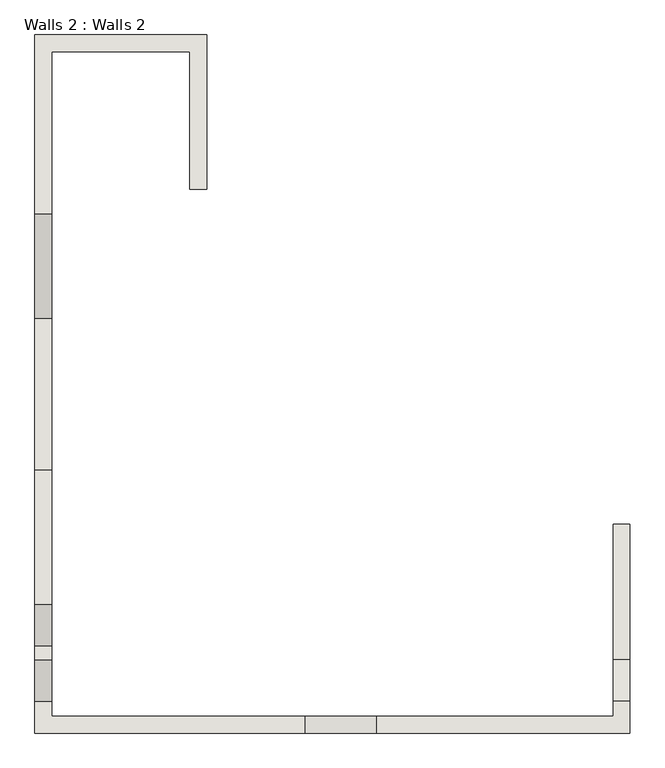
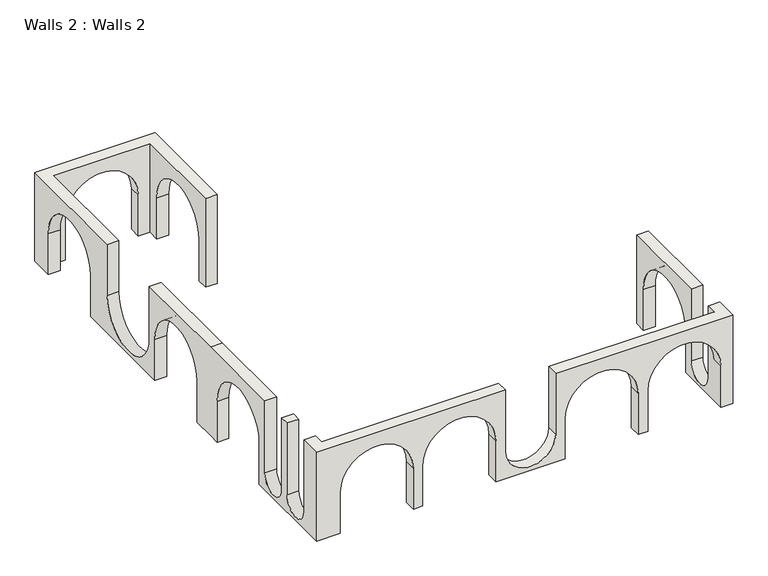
"""IFC4 building model written with IfcOpenShell, lengths in millimetres: wall geometry, Walls 2 : Walls 2."""

import ifcopenshell
import ifcopenshell.guid

model = None  # the IFC model being written
_history = None  # IfcOwnerHistory: only IFC2X3 demands one
_inside = {}  # id of a spatial element -> (the spatial element, [elements in it])
_under = {}  # id of a project, library or spatial element -> (it, [spatial elements below it])
_declared = {}  # id of a project -> (the project, [libraries it declares])
_typed = {}  # id of a type object -> (the type object, [elements of that type])
_made_of = {}  # id of a material, layer set ... -> (it, [elements and type objects made of it])


def new_model(schema):
    """Start an empty IFC model of exactly this schema.

    Asked for "IFC4X3", IfcOpenShell would pick the latest addendum, in which some entities
    have other attributes; the version numbers below select the first issue.
    IFC2X3 requires an IfcOwnerHistory on every rooted entity: one is made here for all.
    """
    global model, _history
    if schema == "IFC4X3":
        model = ifcopenshell.file(schema_version=(4, 3, 0, 0))
    else:
        model = ifcopenshell.file(schema=schema)
    _inside.clear()
    _under.clear()
    _declared.clear()
    _typed.clear()
    _made_of.clear()
    _history = None
    if model.schema == "IFC2X3":
        org = make("IfcOrganization", Name="unknown")
        user = make(
            "IfcPersonAndOrganization",
            ThePerson=make("IfcPerson", FamilyName="unknown"),
            TheOrganization=org,
        )
        app = make(
            "IfcApplication",
            ApplicationDeveloper=org,
            Version="unknown",
            ApplicationFullName="unknown",
            ApplicationIdentifier="unknown",
        )
        _history = make(
            "IfcOwnerHistory",
            OwningUser=user,
            OwningApplication=app,
            ChangeAction="ADDED",
            CreationDate=0,
        )
    return model


def make(cls, **values):
    """One entity of the class cls with the attributes given. An attribute that is None is left unset."""
    return model.create_entity(
        cls, **{name: value for name, value in values.items() if value is not None}
    )


def rooted(cls, **values):
    """An entity with a GlobalId (a new one), such as an element, a storey or a relation."""
    return make(cls, GlobalId=ifcopenshell.guid.new(), OwnerHistory=_history, **values)


def si_unit(unit_type, name, prefix=None):
    """IfcSIUnit, for example si_unit("LENGTHUNIT", "METRE", prefix="MILLI")."""
    return make("IfcSIUnit", UnitType=unit_type, Prefix=prefix, Name=name)


def assignment(units):
    """IfcUnitAssignment: the units of a project."""
    return None if units is None else make("IfcUnitAssignment", Units=units)


def point(xyz):
    """IfcCartesianPoint."""
    return None if xyz is None else make("IfcCartesianPoint", Coordinates=xyz)


def direction(xyz):
    """IfcDirection."""
    return None if xyz is None else make("IfcDirection", DirectionRatios=xyz)


def frame(location, z_axis=None, x_axis=None):
    """IfcAxis2Placement3D, a coordinate frame: its origin and axes. An axis left out is left unset."""
    return make(
        "IfcAxis2Placement3D",
        Location=point(location),
        Axis=direction(z_axis),
        RefDirection=direction(x_axis),
    )


def origin():
    """The frame at (0, 0, 0) with its axes left unset."""
    return frame((0.0, 0.0, 0.0))


def place(relative_to, where):
    """IfcLocalPlacement: puts the frame where relative to a parent placement (None: the world)."""
    return make(
        "IfcLocalPlacement", PlacementRelTo=relative_to, RelativePlacement=where
    )


def context(
    kind, dimensions, precision=None, world=None, true_north=None, identifier=None
):
    """IfcGeometricRepresentationContext, for example the 3D "Model" context."""
    return make(
        "IfcGeometricRepresentationContext",
        ContextIdentifier=identifier,
        ContextType=kind,
        CoordinateSpaceDimension=dimensions,
        Precision=precision,
        WorldCoordinateSystem=world,
        TrueNorth=true_north,
    )


def project(units=None, contexts=None):
    """IfcProject with its units and contexts."""
    return rooted(
        "IfcProject",
        Name="project",
        RepresentationContexts=contexts,
        UnitsInContext=assignment(units),
    )


def spatial(cls, under=None, at=None, **own):
    """A site, building, storey or space (cls), placed at a placement, below another one or the project."""
    s = rooted(cls, ObjectPlacement=at, **own)
    if under is not None:
        _under.setdefault(under.id(), (under, []))[1].append(s)
    return s


def polyline(points):
    """IfcPolyline through the points."""
    return make("IfcPolyline", Points=[point(p) for p in points])


def circle_curve(where, radius):
    """IfcCircle in the frame where."""
    return make("IfcCircle", Position=where, Radius=radius)


def shape(context_of_items, identifier, shape_type, items):
    """IfcShapeRepresentation: the items that make up one representation, for example the "Body"."""
    return make(
        "IfcShapeRepresentation",
        ContextOfItems=context_of_items,
        RepresentationIdentifier=identifier,
        RepresentationType=shape_type,
        Items=items,
    )


def source(mapping_origin, context_of_items, identifier, shape_type, items):
    """IfcRepresentationMap: a shape defined once, which mapped items show again and again."""
    return make(
        "IfcRepresentationMap",
        MappingOrigin=mapping_origin,
        MappedRepresentation=shape(context_of_items, identifier, shape_type, items),
    )


def transform(
    local_origin,
    x_axis=None,
    y_axis=None,
    z_axis=None,
    scale=None,
    scale2=None,
    scale3=None,
    uniform=True,
):
    """IfcCartesianTransformationOperator3D, or its non-uniform kind. x_axis, y_axis, z_axis: its Axis1, 2, 3."""
    if uniform:
        return make(
            "IfcCartesianTransformationOperator3D",
            Axis1=direction(x_axis),
            Axis2=direction(y_axis),
            LocalOrigin=point(local_origin),
            Scale=scale,
            Axis3=direction(z_axis),
        )
    return make(
        "IfcCartesianTransformationOperator3DnonUniform",
        Axis1=direction(x_axis),
        Axis2=direction(y_axis),
        LocalOrigin=point(local_origin),
        Scale=scale,
        Axis3=direction(z_axis),
        Scale2=scale2,
        Scale3=scale3,
    )


def mapped(mapping_source, mapping_target):
    """IfcMappedItem: shows the shape of a source again, moved by a transform."""
    return make(
        "IfcMappedItem", MappingSource=mapping_source, MappingTarget=mapping_target
    )


def made_of(thing, what):
    """Note that an element or type object is made of a material, layer set ...; save() writes the relation."""
    if what is not None:
        _made_of.setdefault(what.id(), (what, []))[1].append(thing)
    return thing


def element(
    cls,
    number,
    at=None,
    inside=None,
    cuts=None,
    type_object=None,
    material=None,
    context=None,
    identifier="Body",
    shape_type=None,
    held_by="IfcProductDefinitionShape",
    body=None,
    shapes=None,
    **own,
):
    """One element of the class cls, such as IfcWall. Its Tag is "e" and its number.

    at: its placement. inside: the storey or other place that contains it. cuts: it is an
    opening in that element (IfcRelVoidsElement). A single representation is given by context,
    identifier, shape_type and body (its items); several are given by shapes. held_by: the class
    of the entity that holds the representations. save() writes the other relations.
    """
    e = rooted(cls, Tag="e%d" % number, ObjectPlacement=at, **own)
    if body is not None:
        shapes = [shape(context, identifier, shape_type, body)]
    if shapes is not None:
        e.Representation = make(held_by, Representations=shapes)
    if inside is not None:
        _inside.setdefault(inside.id(), (inside, []))[1].append(e)
    if cuts is not None:
        rooted(
            "IfcRelVoidsElement", RelatingBuildingElement=cuts, RelatedOpeningElement=e
        )
    if type_object is not None:
        _typed.setdefault(type_object.id(), (type_object, []))[1].append(e)
    return made_of(e, material)


def aggregate(whole, parts):
    """IfcRelAggregates: a whole, such as a stair, and the parts it consists of."""
    return rooted("IfcRelAggregates", RelatingObject=whole, RelatedObjects=parts)


def save(model, path):
    """Write the relations noted so far, then the file.

    IfcRelAggregates (storeys below a building ...), IfcRelContainedInSpatialStructure (elements
    in a storey), IfcRelDefinesByType, IfcRelAssociatesMaterial and IfcRelDeclares: one each for
    every whole, place, type object, material and project.
    """
    for whole, parts in _under.values():
        aggregate(whole, parts)
    for where, things in _inside.values():
        rooted(
            "IfcRelContainedInSpatialStructure",
            RelatedElements=things,
            RelatingStructure=where,
        )
    for kind, things in _typed.values():
        rooted("IfcRelDefinesByType", RelatedObjects=things, RelatingType=kind)
    for what, things in _made_of.values():
        rooted("IfcRelAssociatesMaterial", RelatedObjects=things, RelatingMaterial=what)
    for by, libraries in _declared.values():
        rooted("IfcRelDeclares", RelatingContext=by, RelatedDefinitions=libraries)
    model.write(path)


def plane_surface(at):
    """IfcPlane: the flat surface through the origin of the frame at, square to its z axis."""
    return make("IfcPlane", Position=at)


def revolved_surface(curve, axis_point, axis_direction):
    """IfcSurfaceOfRevolution: the curve turned about the line through axis_point along axis_direction."""
    return make(
        "IfcSurfaceOfRevolution",
        SweptCurve=make("IfcArbitraryOpenProfileDef", ProfileType="CURVE", Curve=curve),
        AxisPosition=make("IfcAxis1Placement", Location=point(axis_point), Axis=direction(axis_direction)),
    )


def advanced_brep(points, edges, surfaces, faces):
    """IfcAdvancedBrep: a solid bounded by faces that lie on surfaces and meet in shared edges.

    An edge is (start, end): straight between two places in points (the first is 0);
    or (start, end, curve); or (start, end, curve, False) where it runs against its curve.
    A face is (place in surfaces, loops), or (place, loops, False) where it looks against
    its surface's normal. A loop lists edges by number (the first is 1), with a minus sign
    where the edge is run from its end to its start. The first loop is the outer one.
    """
    corners = [point(p) for p in points]
    vertices = [make("IfcVertexPoint", VertexGeometry=c) for c in corners]
    made = []
    for start, end, *more in edges:
        made.append(
            make(
                "IfcEdgeCurve",
                EdgeStart=vertices[start],
                EdgeEnd=vertices[end],
                EdgeGeometry=more[0] if more else make("IfcPolyline", Points=[corners[start], corners[end]]),
                SameSense=more[1] if len(more) > 1 else True,
            )
        )
    hull = []
    for where, loops, *sense in faces:
        bounds = []
        for j, loop in enumerate(loops):
            ring = [make("IfcOrientedEdge", EdgeElement=made[abs(k) - 1], Orientation=k > 0) for k in loop]
            bounds.append(
                make(
                    "IfcFaceOuterBound" if j == 0 else "IfcFaceBound",
                    Bound=make("IfcEdgeLoop", EdgeList=ring),
                    Orientation=True,
                )
            )
        hull.append(make("IfcAdvancedFace", Bounds=bounds, FaceSurface=surfaces[where], SameSense=sense[0] if sense else True))
    return make("IfcAdvancedBrep", Outer=make("IfcClosedShell", CfsFaces=hull))


def walls_2_walls_2_3500fc2a(model_context):
    return source(origin(), model_context, "Body", "AdvancedBrep", [
        advanced_brep(
        [(12035.1576528, 9510.3600826, 0.0), (12035.1576528, 9900.3600826, 0.0), (12035.1576528, 9900.3600826, 1472.3), (12035.1576528, 12400.3600826, 1472.3), (12035.1576528, 12400.3600826, 0.0), (12035.1576528, 12790.3600826, 0.0), (12035.1576528, 12790.3600826, 3200.0), (12035.1576528, 8920.3600826, 3200.0), (12035.1576528, 8920.3600826, 1354.8985655), (12035.1576528, 6420.3600826, 1354.8985655), (12035.1576528, 6420.3600826, 3200.0), (12035.1576528, 2810.3600826, 3200.0), (12035.1576528, -399.6399174, 3200.0), (12035.1576528, -399.6399174, 604.8985655), (12035.1576528, -1399.6399174, 604.8985655), (12035.1576528, -1399.6399174, 3200.0), (12035.1576528, -1719.6399174, 3200.0), (12035.1576528, -1719.6399174, 604.8985655), (12035.1576528, -2719.6399174, 604.8985655), (12035.1576528, -2719.6399174, 3200.0), (12035.1576528, -3069.6399174, 3200.0), (12035.1576528, -3069.6399174, 0.0), (12035.1576528, -79.6399174, 0.0), (12035.1576528, -79.6399174, 1472.3), (12035.1576528, 2420.3600826, 1472.3), (12035.1576528, 2420.3600826, 0.0), (12035.1576528, 2810.3600826, 0.0), (12035.1576528, 3600.3600826, 0.0), (12035.1576528, 3600.3600826, 1472.3), (12035.1576528, 6100.3600826, 1472.3), (12035.1576528, 6100.3600826, 0.0), (11635.1576528, 6100.3600826, 0.0), (11635.1576528, 9510.3600826, 0.0), (15335.1576528, 12790.3600826, 3200.0), (15335.1576528, 9510.3600826, 3200.0), (15735.1576528, 9510.3600826, 3200.0), (15735.1576528, 13190.3600826, 3200.0), (11635.1576528, 13190.3600826, 3200.0), (11635.1576528, 8920.3600826, 3200.0), (11635.1576528, 8920.3600826, 1354.8985655), (11635.1576528, 6420.3600826, 1354.8985655), (11635.1576528, 6420.3600826, 3200.0), (11635.1576528, 2810.3600826, 3200.0), (11635.1576528, 2810.3600826, 0.0), (11635.1576528, 3600.3600826, 0.0), (11635.1576528, 3600.3600826, 1472.3), (11635.1576528, 6100.3600826, 1472.3), (11635.1576528, -79.6399174, 0.0), (11635.1576528, -79.6399174, 1472.3), (11635.1576528, 2420.3600826, 1472.3), (11635.1576528, 2420.3600826, 0.0), (11635.1576528, -399.6399174, 3200.0), (11635.1576528, -399.6399174, 604.8985655), (11635.1576528, -1399.6399174, 604.8985655), (11635.1576528, -1399.6399174, 3200.0), (11635.1576528, -1719.6399174, 3200.0), (11635.1576528, -1719.6399174, 604.8985655), (11635.1576528, -2719.6399174, 604.8985655), (11635.1576528, -2719.6399174, 3200.0), (11635.1576528, 9900.3600826, 0.0), (11635.1576528, 9900.3600826, 1472.3), (11635.1576528, 12400.3600826, 1472.3), (11635.1576528, 12400.3600826, 0.0), (11635.1576528, 13190.3600826, 0.0), (12435.1576528, 13190.3600826, 0.0), (12435.1576528, 12790.3600826, 0.0), (12435.1576528, -3069.6399174, 1472.3269791), (12435.1576528, -3069.6399174, 0.0), (18075.1576528, -3069.6399174, 3200.0), (18075.1576528, -3069.6399174, 1000.0), (19795.1576528, -3069.6399174, 1000.0), (19795.1576528, -3069.6399174, 3200.0), (25435.1576528, -3069.6399174, 3200.0), (25435.1576528, -3069.6399174, 1472.3269791), (22935.1576528, -3069.6399174, 1472.3269791), (22935.1576528, -3069.6399174, 0.0), (22615.1576528, -3069.6399174, 0.0), (22615.1576528, -3069.6399174, 1472.3269791), (20115.1576528, -3069.6399174, 1472.3269791), (20115.1576528, -3069.6399174, 0.0), (17755.1576528, -3069.6399174, 0.0), (17755.1576528, -3069.6399174, 1472.3269791), (15255.1576528, -3069.6399174, 1472.3269791), (15255.1576528, -3069.6399174, 0.0), (14935.1576528, -3069.6399174, 0.0), (14935.1576528, -3069.6399174, 1472.3269791), (12435.1576528, -3469.6399174, 1472.3269791), (14935.1576528, -3469.6399174, 1472.3269791), (14935.1576528, -3469.6399174, 0.0), (15255.1576528, -3469.6399174, 0.0), (15255.1576528, -3469.6399174, 1472.3269791), (17755.1576528, -3469.6399174, 1472.3269791), (17755.1576528, -3469.6399174, 0.0), (20115.1576528, -3469.6399174, 0.0), (20115.1576528, -3469.6399174, 1472.3269791), (22615.1576528, -3469.6399174, 1472.3269791), (22615.1576528, -3469.6399174, 0.0), (22935.1576528, -3469.6399174, 0.0), (22935.1576528, -3469.6399174, 1472.3269791), (25435.1576528, -3469.6399174, 1472.3269791), (25435.1576528, -3469.6399174, 0.0), (25835.1576528, -3469.6399174, 0.0), (25835.1576528, -3469.6399174, 3200.0), (19795.1576528, -3469.6399174, 3200.0), (19795.1576528, -3469.6399174, 1000.0), (18075.1576528, -3469.6399174, 1000.0), (18075.1576528, -3469.6399174, 3200.0), (11635.1576528, -3469.6399174, 3200.0), (11635.1576528, -3469.6399174, 0.0), (12435.1576528, -3469.6399174, 0.0), (25835.1576528, -2709.6399174, 3200.0), (25435.1576528, -2709.6399174, 3200.0), (25835.1576528, -1389.6399174, 0.0), (25835.1576528, -1389.6399174, 1472.3), (25835.1576528, 1110.3600826, 1472.3), (25835.1576528, 1110.3600826, 0.0), (25835.1576528, 1510.3600826, 0.0), (25835.1576528, 1510.3600826, 3200.0), (25835.1576528, -1709.6399174, 3200.0), (25835.1576528, -1709.6399174, 600.0), (25835.1576528, -2709.6399174, 600.0), (25435.1576528, -1389.6399174, 0.0), (25435.1576528, -2709.6399174, 600.0), (25435.1576528, -1709.6399174, 600.0), (25435.1576528, -1709.6399174, 3200.0), (25435.1576528, 1510.3600826, 3200.0), (25435.1576528, 1510.3600826, 0.0), (25435.1576528, 1110.3600826, 0.0), (25435.1576528, 1110.3600826, 1472.3), (25435.1576528, -1389.6399174, 1472.3), (12435.1576528, 12790.3600826, 1472.3), (14935.1576528, 12790.3600826, 1472.3), (14935.1576528, 12790.3600826, 0.0), (15335.1576528, 12790.3600826, 0.0), (15735.1576528, 13190.3600826, 0.0), (14935.1576528, 13190.3600826, 0.0), (14935.1576528, 13190.3600826, 1472.3), (12435.1576528, 13190.3600826, 1472.3), (15735.1576528, 12390.3600826, 0.0), (15335.1576528, 12390.3600826, 0.0), (15735.1576528, 9510.3600826, 0.0), (15735.1576528, 9890.3600826, 0.0), (15735.1576528, 9890.3600826, 1472.3), (15735.1576528, 12390.3600826, 1472.3), (15335.1576528, 12390.3600826, 1472.3), (15335.1576528, 9890.3600826, 1472.3), (15335.1576528, 9890.3600826, 0.0), (15335.1576528, 9510.3600826, 0.0)],
        [
            (0, 1),
            (1, 2),
            (2, 3, circle_curve(frame((12035.1576528, 11150.3600826, 1472.3), z_axis=(-1.0, 0.0, 0.0), x_axis=(0.0, 1.0, 0.0)), 1250.0)),
            (3, 4),
            (4, 5),
            (5, 6),
            (6, 7),
            (7, 8),
            (8, 9, circle_curve(frame((12035.1576528, 7670.3600826, 1354.8985655), z_axis=(-1.0, 0.0, 0.0), x_axis=(0.0, 1.0, 0.0)), 1250.0)),
            (9, 10),
            (10, 11),
            (11, 12),
            (12, 13),
            (13, 14, circle_curve(frame((12035.1576528, -899.6399174, 604.8985655), z_axis=(-1.0, 0.0, 0.0), x_axis=(0.0, 1.0, 0.0)), 500.0)),
            (14, 15),
            (15, 16),
            (16, 17),
            (17, 18, circle_curve(frame((12035.1576528, -2219.6399174, 604.8985655), z_axis=(-1.0, 0.0, 0.0), x_axis=(0.0, 1.0, 0.0)), 500.0)),
            (18, 19),
            (19, 20),
            (20, 21),
            (21, 22),
            (22, 23),
            (23, 24, circle_curve(frame((12035.1576528, 1170.3600826, 1472.3), z_axis=(-1.0, 0.0, 0.0), x_axis=(0.0, -1.0, 0.0)), 1250.0)),
            (24, 25),
            (25, 26),
            (26, 27),
            (27, 28),
            (28, 29, circle_curve(frame((12035.1576528, 4850.3600826, 1472.3), z_axis=(-1.0, 0.0, 0.0), x_axis=(0.0, 1.0, 0.0)), 1250.0)),
            (29, 30),
            (30, 0),
            (30, 31),
            (31, 32),
            (32, 0),
            (6, 33),
            (33, 34),
            (34, 35),
            (35, 36),
            (36, 37),
            (37, 38),
            (38, 7),
            (38, 39),
            (39, 8),
            (39, 40, circle_curve(frame((11635.1576528, 7670.3600826, 1354.8985655), z_axis=(-1.0, 0.0, 0.0), x_axis=(0.0, 1.0, 0.0)), 1250.0)),
            (40, 9),
            (40, 41),
            (41, 10),
            (41, 42),
            (42, 11),
            (26, 43),
            (43, 44),
            (44, 27),
            (44, 45),
            (45, 28),
            (45, 46, circle_curve(frame((11635.1576528, 4850.3600826, 1472.3), z_axis=(-1.0, 0.0, 0.0), x_axis=(0.0, 1.0, 0.0)), 1250.0)),
            (46, 29),
            (46, 31),
            (22, 47),
            (47, 48),
            (48, 23),
            (48, 49, circle_curve(frame((11635.1576528, 1170.3600826, 1472.3), z_axis=(-1.0, 0.0, 0.0), x_axis=(0.0, -1.0, 0.0)), 1250.0)),
            (49, 24),
            (49, 50),
            (50, 25),
            (50, 43),
            (42, 51),
            (51, 12),
            (51, 52),
            (52, 13),
            (52, 53, circle_curve(frame((11635.1576528, -899.6399174, 604.8985655), z_axis=(-1.0, 0.0, 0.0), x_axis=(0.0, 1.0, 0.0)), 500.0)),
            (53, 14),
            (53, 54),
            (54, 15),
            (54, 55),
            (55, 16),
            (55, 56),
            (56, 17),
            (56, 57, circle_curve(frame((11635.1576528, -2219.6399174, 604.8985655), z_axis=(-1.0, 0.0, 0.0), x_axis=(0.0, 1.0, 0.0)), 500.0)),
            (57, 18),
            (57, 58),
            (58, 19),
            (32, 59),
            (59, 1),
            (59, 60),
            (60, 2),
            (60, 61, circle_curve(frame((11635.1576528, 11150.3600826, 1472.3), z_axis=(-1.0, 0.0, 0.0), x_axis=(0.0, 1.0, 0.0)), 1250.0)),
            (61, 3),
            (61, 62),
            (62, 4),
            (62, 63),
            (63, 64),
            (64, 65),
            (65, 5),
            (66, 67),
            (67, 21),
            (20, 68),
            (68, 69),
            (69, 70, circle_curve(frame((18935.1576528, -3069.6399174, 1000.0), z_axis=(0.0, -1.0, 0.0), x_axis=(1.0, 0.0, 0.0)), 860.0)),
            (70, 71),
            (71, 72),
            (72, 73),
            (73, 74, circle_curve(frame((24185.1576528, -3069.6399174, 1472.3269791), z_axis=(0.0, -1.0, 0.0), x_axis=(1.0, 0.0, 0.0)), 1250.0)),
            (74, 75),
            (75, 76),
            (76, 77),
            (77, 78, circle_curve(frame((21365.1576528, -3069.6399174, 1472.3269791), z_axis=(0.0, -1.0, 0.0), x_axis=(1.0, 0.0, 0.0)), 1250.0)),
            (78, 79),
            (79, 80),
            (80, 81),
            (81, 82, circle_curve(frame((16505.1576528, -3069.6399174, 1472.3269791), z_axis=(0.0, -1.0, 0.0), x_axis=(1.0, 0.0, 0.0)), 1250.0)),
            (82, 83),
            (83, 84),
            (84, 85),
            (85, 66, circle_curve(frame((13685.1576528, -3069.6399174, 1472.3269791), z_axis=(0.0, -1.0, 0.0), x_axis=(1.0, 0.0, 0.0)), 1250.0)),
            (86, 87, circle_curve(frame((13685.1576528, -3469.6399174, 1472.3269791), z_axis=(0.0, 1.0, 0.0), x_axis=(1.0, 0.0, 0.0)), 1250.0)),
            (87, 88),
            (88, 89),
            (89, 90),
            (90, 91, circle_curve(frame((16505.1576528, -3469.6399174, 1472.3269791), z_axis=(0.0, 1.0, 0.0), x_axis=(1.0, 0.0, 0.0)), 1250.0)),
            (91, 92),
            (92, 93),
            (93, 94),
            (94, 95, circle_curve(frame((21365.1576528, -3469.6399174, 1472.3269791), z_axis=(0.0, 1.0, 0.0), x_axis=(1.0, 0.0, 0.0)), 1250.0)),
            (95, 96),
            (96, 97),
            (97, 98),
            (98, 99, circle_curve(frame((24185.1576528, -3469.6399174, 1472.3269791), z_axis=(0.0, 1.0, 0.0), x_axis=(1.0, 0.0, 0.0)), 1250.0)),
            (99, 100),
            (100, 101),
            (101, 102),
            (102, 103),
            (103, 104),
            (104, 105, circle_curve(frame((18935.1576528, -3469.6399174, 1000.0), z_axis=(0.0, 1.0, 0.0), x_axis=(1.0, 0.0, 0.0)), 860.0)),
            (105, 106),
            (106, 107),
            (107, 108),
            (108, 109),
            (109, 86),
            (85, 87),
            (86, 66),
            (84, 88),
            (109, 67),
            (108, 47),
            (107, 58),
            (37, 63),
            (106, 68),
            (105, 69),
            (104, 70),
            (103, 71),
            (102, 110),
            (110, 111),
            (111, 72),
            (101, 112),
            (112, 113),
            (113, 114, circle_curve(frame((25835.1576528, -139.6399174, 1472.3), z_axis=(-1.0, 0.0, 0.0), x_axis=(0.0, -1.0, 0.0)), 1250.0)),
            (114, 115),
            (115, 116),
            (116, 117),
            (117, 118),
            (118, 119),
            (119, 120, circle_curve(frame((25835.1576528, -2209.6399174, 600.0), z_axis=(-1.0, 0.0, 0.0), x_axis=(0.0, -1.0, 0.0)), 500.0)),
            (120, 110),
            (100, 121),
            (121, 112),
            (79, 93),
            (92, 80),
            (91, 81),
            (90, 82),
            (89, 83),
            (99, 73),
            (111, 122),
            (122, 123, circle_curve(frame((25435.1576528, -2209.6399174, 600.0), z_axis=(1.0, 0.0, 0.0), x_axis=(0.0, -1.0, 0.0)), 500.0)),
            (123, 124),
            (124, 125),
            (125, 126),
            (126, 127),
            (127, 128),
            (128, 129, circle_curve(frame((25435.1576528, -139.6399174, 1472.3), z_axis=(1.0, 0.0, 0.0), x_axis=(0.0, -1.0, 0.0)), 1250.0)),
            (129, 121),
            (98, 74),
            (97, 75),
            (96, 76),
            (95, 77),
            (94, 78),
            (124, 118),
            (117, 125),
            (116, 126),
            (115, 127),
            (114, 128),
            (113, 129),
            (120, 122),
            (119, 123),
            (65, 130),
            (130, 131, circle_curve(frame((13685.1576528, 12790.3600826, 1472.3), z_axis=(0.0, 1.0, 0.0), x_axis=(1.0, 0.0, 0.0)), 1250.0)),
            (131, 132),
            (132, 133),
            (133, 33),
            (36, 134),
            (134, 135),
            (135, 136),
            (136, 137, circle_curve(frame((13685.1576528, 13190.3600826, 1472.3), z_axis=(0.0, -1.0, 0.0), x_axis=(1.0, 0.0, 0.0)), 1250.0)),
            (137, 64),
            (137, 130),
            (136, 131),
            (135, 132),
            (134, 138),
            (138, 139),
            (139, 133),
            (35, 140),
            (140, 141),
            (141, 142),
            (142, 143, circle_curve(frame((15735.1576528, 11140.3600826, 1472.3), z_axis=(-1.0, 0.0, 0.0), x_axis=(0.0, -1.0, 0.0)), 1250.0)),
            (143, 138),
            (139, 144),
            (144, 145, circle_curve(frame((15335.1576528, 11140.3600826, 1472.3), z_axis=(1.0, 0.0, 0.0), x_axis=(0.0, -1.0, 0.0)), 1250.0)),
            (145, 146),
            (146, 147),
            (147, 34),
            (143, 144),
            (142, 145),
            (141, 146),
            (140, 147),
        ],
        [
            plane_surface(frame((12035.1576528, 8390.3600826, 0.0), z_axis=(1.0, 0.0, 0.0), x_axis=(0.0, 1.0, 0.0))),
            plane_surface(frame((12035.1576528, 6100.3600826, 0.0), z_axis=(0.0, 0.0, -1.0), x_axis=(-1.0, 0.0, 0.0))),
            plane_surface(frame((12035.1576528, 12790.3600826, 3200.0), z_axis=(0.0, 0.0, 1.0), x_axis=(-1.0, 0.0, 0.0))),
            plane_surface(frame((12035.1576528, 8920.3600826, 3200.0), z_axis=(0.0, -1.0, 0.0), x_axis=(-1.0, 0.0, 0.0))),
            revolved_surface(polyline([(11635.1576528, 8920.3600826, 1354.8985655), (12035.1576528, 8920.3600826, 1354.8985655)]), (11635.1576528, 7670.3600826, 1354.8985655), (-1.0, 0.0, 0.0)),
            plane_surface(frame((12035.1576528, 6420.3600826, 1354.8985655), z_axis=(0.0, 1.0, 0.0), x_axis=(-1.0, 0.0, 0.0))),
            plane_surface(frame((12035.1576528, 6420.3600826, 3200.0), z_axis=(0.0, 0.0, 1.0), x_axis=(-1.0, 0.0, 0.0))),
            plane_surface(frame((12035.1576528, 2810.3600826, 0.0), z_axis=(0.0, 0.0, -1.0), x_axis=(-1.0, 0.0, 0.0))),
            plane_surface(frame((12035.1576528, 3600.3600826, 0.0), z_axis=(0.0, 1.0, 0.0), x_axis=(-1.0, 0.0, 0.0))),
            revolved_surface(polyline([(11635.1576528, 6100.3600826, 1472.3), (12035.1576528, 6100.3600826, 1472.3)]), (11635.1576528, 4850.3600826, 1472.3), (-1.0, 0.0, 0.0)),
            plane_surface(frame((12035.1576528, 6100.3600826, 1472.3), z_axis=(0.0, -1.0, 0.0), x_axis=(-1.0, 0.0, 0.0))),
            plane_surface(frame((12035.1576528, -79.6399174, 0.0), z_axis=(0.0, 1.0, 0.0), x_axis=(-1.0, 0.0, 0.0))),
            revolved_surface(polyline([(11635.1576528, -79.63991740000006, 1472.3), (12035.1576528, -79.63991740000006, 1472.3)]), (11635.1576528, 1170.3600826, 1472.3), (-1.0, 0.0, 0.0)),
            plane_surface(frame((12035.1576528, 2420.3600826, 1472.3), z_axis=(0.0, -1.0, 0.0), x_axis=(-1.0, 0.0, 0.0))),
            plane_surface(frame((12035.1576528, 2420.3600826, 0.0), z_axis=(0.0, 0.0, -1.0), x_axis=(-1.0, 0.0, 0.0))),
            plane_surface(frame((12035.1576528, 2810.3600826, 3200.0), z_axis=(0.0, 0.0, 1.0), x_axis=(-1.0, 0.0, 0.0))),
            plane_surface(frame((12035.1576528, -399.6399174, 3200.0), z_axis=(0.0, -1.0, 0.0), x_axis=(-1.0, 0.0, 0.0))),
            revolved_surface(polyline([(11635.1576528, -399.63991739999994, 604.8985655), (12035.1576528, -399.63991739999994, 604.8985655)]), (11635.1576528, -899.6399174, 604.8985655), (-1.0, 0.0, 0.0)),
            plane_surface(frame((12035.1576528, -1399.6399174, 604.8985655), z_axis=(0.0, 1.0, 0.0), x_axis=(-1.0, 0.0, 0.0))),
            plane_surface(frame((12035.1576528, -1399.6399174, 3200.0), z_axis=(0.0, 0.0, 1.0), x_axis=(-1.0, 0.0, 0.0))),
            plane_surface(frame((12035.1576528, -1719.6399174, 3200.0), z_axis=(0.0, -1.0, 0.0), x_axis=(-1.0, 0.0, 0.0))),
            revolved_surface(polyline([(11635.1576528, -1719.6399173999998, 604.8985655), (12035.1576528, -1719.6399173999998, 604.8985655)]), (11635.1576528, -2219.6399174, 604.8985655), (-1.0, 0.0, 0.0)),
            plane_surface(frame((12035.1576528, -2719.6399174, 604.8985655), z_axis=(0.0, 1.0, 0.0), x_axis=(-1.0, 0.0, 0.0))),
            plane_surface(frame((12035.1576528, 9510.3600826, 0.0), z_axis=(0.0, 0.0, -1.0), x_axis=(-1.0, 0.0, 0.0))),
            plane_surface(frame((12035.1576528, 9900.3600826, 0.0), z_axis=(0.0, 1.0, 0.0), x_axis=(-1.0, 0.0, 0.0))),
            revolved_surface(polyline([(11635.1576528, 12400.3600826, 1472.3), (12035.1576528, 12400.3600826, 1472.3)]), (11635.1576528, 11150.3600826, 1472.3), (-1.0, 0.0, 0.0)),
            plane_surface(frame((12035.1576528, 12400.3600826, 1472.3), z_axis=(0.0, -1.0, 0.0), x_axis=(-1.0, 0.0, 0.0))),
            plane_surface(frame((12035.1576528, 12400.3600826, 0.0), z_axis=(0.0, 0.0, -1.0), x_axis=(-1.0, 0.0, 0.0))),
            plane_surface(frame((12435.1576528, -3069.6399174, 0.0), z_axis=(0.0, 1.0, 0.0), x_axis=(0.0, 0.0, -1.0))),
            plane_surface(frame((12435.1576528, -3469.6399174, 0.0), z_axis=(0.0, -1.0, 0.0), x_axis=(0.0, 0.0, 1.0))),
            revolved_surface(polyline([(14935.1576528, -3469.6399174, 1472.3269791), (14935.1576528, -3069.6399174, 1472.3269791)]), (13685.1576528, -3469.6399174, 1472.3269791), (0.0, -1.0, 0.0)),
            plane_surface(frame((14935.1576528, -3069.6399174, 0.0), z_axis=(-1.0, 0.0, 0.0), x_axis=(0.0, -1.0, 0.0))),
            plane_surface(frame((12435.1576528, -3069.6399174, 1472.3269791), z_axis=(1.0, 0.0, 0.0), x_axis=(0.0, -1.0, 0.0))),
            plane_surface(frame((12435.1576528, -3069.6399174, 0.0), z_axis=(0.0, 0.0, -1.0), x_axis=(0.0, -1.0, 0.0))),
            plane_surface(frame((11635.1576528, -3069.6399174, 0.0), z_axis=(-1.0, 0.0, 0.0), x_axis=(0.0, -1.0, 0.0))),
            plane_surface(frame((11635.1576528, -3069.6399174, 3200.0), z_axis=(0.0, 0.0, 1.0), x_axis=(0.0, -1.0, 0.0))),
            plane_surface(frame((18075.1576528, -3069.6399174, 3200.0), z_axis=(1.0, 0.0, 0.0), x_axis=(0.0, -1.0, 0.0))),
            revolved_surface(polyline([(19795.1576528, -3469.6399174, 1000.0), (19795.1576528, -3069.6399174, 1000.0)]), (18935.1576528, -3469.6399174, 1000.0), (0.0, -1.0, 0.0)),
            plane_surface(frame((19795.1576528, -3069.6399174, 1000.0), z_axis=(-1.0, 0.0, 0.0), x_axis=(0.0, -1.0, 0.0))),
            plane_surface(frame((19795.1576528, -3069.6399174, 3200.0), z_axis=(0.0, 0.0, 1.0), x_axis=(0.0, -1.0, 0.0))),
            plane_surface(frame((25835.1576528, -3069.6399174, 3200.0), z_axis=(1.0, 0.0, 0.0), x_axis=(0.0, -1.0, 0.0))),
            plane_surface(frame((25835.1576528, -3069.6399174, 0.0), z_axis=(0.0, 0.0, -1.0), x_axis=(0.0, -1.0, 0.0))),
            plane_surface(frame((20115.1576528, -3069.6399174, 0.0), z_axis=(0.0, 0.0, -1.0), x_axis=(0.0, -1.0, 0.0))),
            plane_surface(frame((17755.1576528, -3069.6399174, 0.0), z_axis=(-1.0, 0.0, 0.0), x_axis=(0.0, -1.0, 0.0))),
            revolved_surface(polyline([(17755.1576528, -3469.6399174, 1472.3269791), (17755.1576528, -3069.6399174, 1472.3269791)]), (16505.1576528, -3469.6399174, 1472.3269791), (0.0, -1.0, 0.0)),
            plane_surface(frame((15255.1576528, -3069.6399174, 1472.3269791), z_axis=(1.0, 0.0, 0.0), x_axis=(0.0, -1.0, 0.0))),
            plane_surface(frame((15255.1576528, -3069.6399174, 0.0), z_axis=(0.0, 0.0, -1.0), x_axis=(0.0, -1.0, 0.0))),
            plane_surface(frame((25435.1576528, -3069.6399174, 0.0), z_axis=(-1.0, 0.0, 0.0), x_axis=(0.0, -1.0, 0.0))),
            revolved_surface(polyline([(25435.1576528, -3469.6399174, 1472.3269791), (25435.1576528, -3069.6399174, 1472.3269791)]), (24185.1576528, -3469.6399174, 1472.3269791), (0.0, -1.0, 0.0)),
            plane_surface(frame((22935.1576528, -3069.6399174, 1472.3269791), z_axis=(1.0, 0.0, 0.0), x_axis=(0.0, -1.0, 0.0))),
            plane_surface(frame((22935.1576528, -3069.6399174, 0.0), z_axis=(0.0, 0.0, -1.0), x_axis=(0.0, -1.0, 0.0))),
            plane_surface(frame((22615.1576528, -3069.6399174, 0.0), z_axis=(-1.0, 0.0, 0.0), x_axis=(0.0, -1.0, 0.0))),
            revolved_surface(polyline([(22615.1576528, -3469.6399174, 1472.3269791), (22615.1576528, -3069.6399174, 1472.3269791)]), (21365.1576528, -3469.6399174, 1472.3269791), (0.0, -1.0, 0.0)),
            plane_surface(frame((20115.1576528, -3069.6399174, 1472.3269791), z_axis=(1.0, 0.0, 0.0), x_axis=(0.0, -1.0, 0.0))),
            plane_surface(frame((25435.1576528, -1709.6399174, 3200.0), z_axis=(0.0, 0.0, 1.0), x_axis=(1.0, 0.0, 0.0))),
            plane_surface(frame((25435.1576528, 1510.3600826, 3200.0), z_axis=(0.0, 1.0, 0.0), x_axis=(1.0, 0.0, 0.0))),
            plane_surface(frame((25435.1576528, 1510.3600826, 0.0), z_axis=(0.0, 0.0, -1.0), x_axis=(1.0, 0.0, 0.0))),
            plane_surface(frame((25435.1576528, 1110.3600826, 0.0), z_axis=(0.0, -1.0, 0.0), x_axis=(1.0, 0.0, 0.0))),
            revolved_surface(polyline([(25835.1576528, -1389.6399174, 1472.3), (25435.1576528, -1389.6399174, 1472.3)]), (25835.1576528, -139.6399174, 1472.3), (1.0, 0.0, 0.0)),
            plane_surface(frame((25435.1576528, -1389.6399174, 1472.3), z_axis=(0.0, 1.0, 0.0), x_axis=(1.0, 0.0, 0.0))),
            plane_surface(frame((25435.1576528, -2709.6399174, 3200.0), z_axis=(0.0, 1.0, 0.0), x_axis=(1.0, 0.0, 0.0))),
            revolved_surface(polyline([(25835.1576528, -2709.6399174, 600.0), (25435.1576528, -2709.6399174, 600.0)]), (25835.1576528, -2209.6399174, 600.0), (1.0, 0.0, 0.0)),
            plane_surface(frame((25435.1576528, -1709.6399174, 600.0), z_axis=(0.0, -1.0, 0.0), x_axis=(1.0, 0.0, 0.0))),
            plane_surface(frame((11635.1576528, 12790.3600826, 0.0), z_axis=(0.0, -1.0, 0.0), x_axis=(0.0, 0.0, -1.0))),
            plane_surface(frame((11635.1576528, 13190.3600826, 0.0), z_axis=(0.0, 1.0, 0.0), x_axis=(0.0, 0.0, 1.0))),
            plane_surface(frame((12435.1576528, 12790.3600826, 0.0), z_axis=(1.0, 0.0, 0.0), x_axis=(0.0, 1.0, 0.0))),
            revolved_surface(polyline([(14935.1576528, 13190.3600826, 1472.3), (14935.1576528, 12790.3600826, 1472.3)]), (13685.1576528, 13190.3600826, 1472.3), (0.0, 1.0, 0.0)),
            plane_surface(frame((14935.1576528, 12790.3600826, 1472.3), z_axis=(-1.0, 0.0, 0.0), x_axis=(0.0, 1.0, 0.0))),
            plane_surface(frame((14935.1576528, 12790.3600826, 0.0), z_axis=(0.0, 0.0, -1.0), x_axis=(0.0, 1.0, 0.0))),
            plane_surface(frame((15735.1576528, 12790.3600826, 0.0), z_axis=(1.0, 0.0, 0.0), x_axis=(0.0, 1.0, 0.0))),
            plane_surface(frame((15335.1576528, 12790.3600826, 0.0), z_axis=(-1.0, 0.0, 0.0), x_axis=(0.0, 0.0, -1.0))),
            plane_surface(frame((15335.1576528, 12390.3600826, 0.0), z_axis=(0.0, -1.0, 0.0), x_axis=(1.0, 0.0, 0.0))),
            revolved_surface(polyline([(15735.1576528, 9890.3600826, 1472.3), (15335.1576528, 9890.3600826, 1472.3)]), (15735.1576528, 11140.3600826, 1472.3), (1.0, 0.0, 0.0)),
            plane_surface(frame((15335.1576528, 9890.3600826, 1472.3), z_axis=(0.0, 1.0, 0.0), x_axis=(1.0, 0.0, 0.0))),
            plane_surface(frame((15335.1576528, 9890.3600826, 0.0), z_axis=(0.0, 0.0, -1.0), x_axis=(1.0, 0.0, 0.0))),
            plane_surface(frame((15335.1576528, 9510.3600826, 0.0), z_axis=(0.0, -1.0, 0.0), x_axis=(1.0, 0.0, 0.0))),
        ],
        [
            (0, [[1, 2, 3, 4, 5, 6, 7, 8, 9, 10, 11, 12, 13, 14, 15, 16, 17, 18, 19, 20, 21, 22, 23, 24, 25, 26, 27, 28, 29, 30, 31]]),
            (1, [[-31, 32, 33, 34]]),
            (2, [[-7, 35, 36, 37, 38, 39, 40, 41]]),
            (3, [[-8, -41, 42, 43]]),
            (4, [[-9, -43, 44, 45]]),
            (5, [[-10, -45, 46, 47]]),
            (6, [[-11, -47, 48, 49]]),
            (7, [[-27, 50, 51, 52]]),
            (8, [[-28, -52, 53, 54]]),
            (9, [[-29, -54, 55, 56]]),
            (10, [[-30, -56, 57, -32]]),
            (11, [[-23, 58, 59, 60]]),
            (12, [[-24, -60, 61, 62]]),
            (13, [[-25, -62, 63, 64]]),
            (14, [[-26, -64, 65, -50]]),
            (15, [[-12, -49, 66, 67]]),
            (16, [[-13, -67, 68, 69]]),
            (17, [[-14, -69, 70, 71]]),
            (18, [[-15, -71, 72, 73]]),
            (19, [[-16, -73, 74, 75]]),
            (20, [[-17, -75, 76, 77]]),
            (21, [[-18, -77, 78, 79]]),
            (22, [[-19, -79, 80, 81]]),
            (23, [[-1, -34, 82, 83]]),
            (24, [[-2, -83, 84, 85]]),
            (25, [[-3, -85, 86, 87]]),
            (26, [[-4, -87, 88, 89]]),
            (27, [[-5, -89, 90, 91, 92, 93]]),
            (28, [[94, 95, -21, 96, 97, 98, 99, 100, 101, 102, 103, 104, 105, 106, 107, 108, 109, 110, 111, 112, 113, 114]]),
            (29, [[115, 116, 117, 118, 119, 120, 121, 122, 123, 124, 125, 126, 127, 128, 129, 130, 131, 132, 133, 134, 135, 136, 137, 138]]),
            (30, [[-114, 139, -115, 140]]),
            (31, [[-113, 141, -116, -139]]),
            (32, [[-94, -140, -138, 142]]),
            (33, [[-137, 143, -58, -22, -95, -142]]),
            (34, [[-136, 144, -80, -78, -76, -74, -72, -70, -68, -66, -48, -46, -44, -42, -40, 145, -90, -88, -86, -84, -82, -33, -57, -55, -53, -51, -65, -63, -61, -59, -143]]),
            (35, [[-135, 146, -96, -20, -81, -144]]),
            (36, [[-97, -146, -134, 147]]),
            (37, [[-98, -147, -133, 148]]),
            (38, [[-99, -148, -132, 149]]),
            (39, [[-131, 150, 151, 152, -100, -149]]),
            (40, [[-130, 153, 154, 155, 156, 157, 158, 159, 160, 161, 162, -150]]),
            (41, [[-129, 163, 164, -153]]),
            (42, [[-108, 165, -121, 166]]),
            (43, [[-109, -166, -120, 167]]),
            (44, [[-110, -167, -119, 168]]),
            (45, [[-111, -168, -118, 169]]),
            (46, [[-112, -169, -117, -141]]),
            (47, [[-128, 170, -101, -152, 171, 172, 173, 174, 175, 176, 177, 178, 179, -163]]),
            (48, [[-102, -170, -127, 180]]),
            (49, [[-103, -180, -126, 181]]),
            (50, [[-104, -181, -125, 182]]),
            (51, [[-105, -182, -124, 183]]),
            (52, [[-106, -183, -123, 184]]),
            (53, [[-107, -184, -122, -165]]),
            (54, [[-174, 185, -159, 186]]),
            (55, [[-175, -186, -158, 187]]),
            (56, [[-176, -187, -157, 188]]),
            (57, [[-177, -188, -156, 189]]),
            (58, [[-178, -189, -155, 190]]),
            (59, [[-179, -190, -154, -164]]),
            (60, [[-171, -151, -162, 191]]),
            (61, [[-172, -191, -161, 192]]),
            (62, [[-173, -192, -160, -185]]),
            (63, [[193, 194, 195, 196, 197, -35, -6, -93]]),
            (64, [[-39, 198, 199, 200, 201, 202, -91, -145]]),
            (65, [[-193, -92, -202, 203]]),
            (66, [[-194, -203, -201, 204]]),
            (67, [[-195, -204, -200, 205]]),
            (68, [[-199, 206, 207, 208, -196, -205]]),
            (69, [[-206, -198, -38, 209, 210, 211, 212, 213]]),
            (70, [[-208, 214, 215, 216, 217, 218, -36, -197]]),
            (71, [[-214, -207, -213, 219]]),
            (72, [[-215, -219, -212, 220]]),
            (73, [[-216, -220, -211, 221]]),
            (74, [[-217, -221, -210, 222]]),
            (75, [[-218, -222, -209, -37]]),
        ],
    ),
    ])


if __name__ == "__main__":
    model = new_model("IFC4")
    model_context = context("Model", 3, world=origin())
    ifc_project = project(units=[si_unit("LENGTHUNIT", "METRE", prefix="MILLI")], contexts=[model_context])
    site = spatial("IfcSite", under=ifc_project)
    building = spatial("IfcBuilding", under=site)
    placement = place(None, origin())
    walls_2_walls_2_shape = walls_2_walls_2_3500fc2a(model_context)
    element("IfcWall", 1, ObjectType="Walls 2 : Walls 2", at=placement, inside=building, context=model_context, shape_type="MappedRepresentation", body=[
        mapped(walls_2_walls_2_shape, transform((0.0, 0.0, 0.0), x_axis=(1.0, 0.0, 0.0), y_axis=(0.0, 1.0, 0.0), z_axis=(0.0, 0.0, 1.0))),
    ])
    save(model, "model.ifc")
